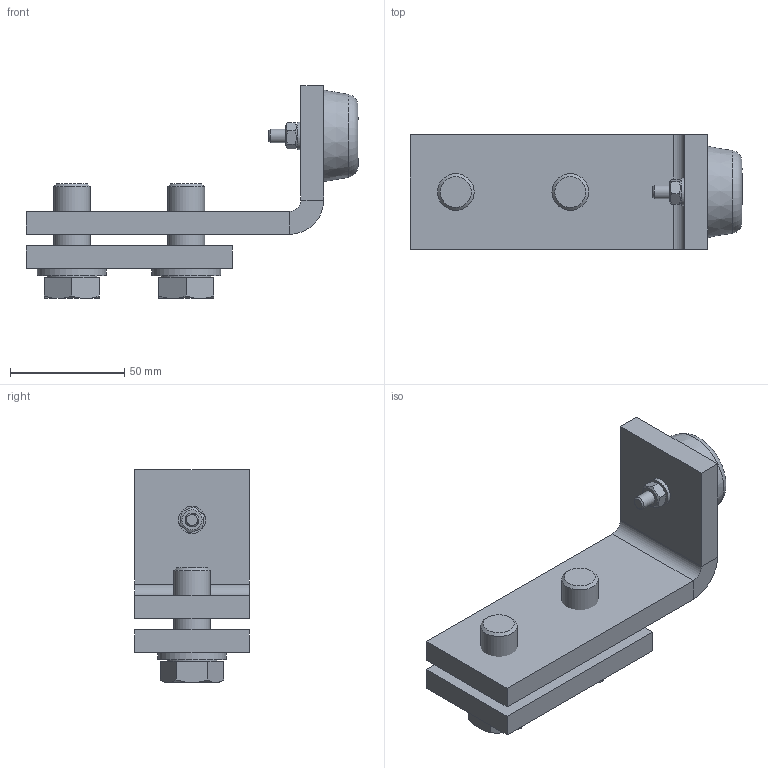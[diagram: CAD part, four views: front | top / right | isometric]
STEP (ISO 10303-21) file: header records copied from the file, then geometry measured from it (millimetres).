
FILE_DESCRIPTION(/* description */ ('Brennteil'),/* implementation_level */ '2;1');
FILE_NAME(/* name */ 'Q:\sge-ma\Produktmanagement-STB\STB\Workspace\stp\010336090.stp',/* time_stamp */ '2016-07-21T08:29:29+02:00',/* author */ ('avschreier'),/* organization */ (''),/* preprocessor_version */ 'ST-DEVELOPER v16.1',/* originating_system */ 'Autodesk Inventor 2016',/* authorisation */ '');
FILE_SCHEMA (('CONFIG_CONTROL_DESIGN'));
Length unit declared in the file: millimetre
Products named in the file (9): 000302253; 000302263; DIN_EN_ISO_4017-M16x40_en; 004203041; DIN_EN_ISO_7090-6,4_en; DIN_EN_ISO_4033-M6_en; DIN_EN_ISO_4017-M6x30_en; DIN_EN_ISO_7090-17_en; 010336090
Assembly tree (10 placements, depth 2):
  010336090
    000302253
    000302263
    DIN_EN_ISO_4017-M16x40_en  x2
    004203041
    DIN_EN_ISO_7090-6,4_en
    DIN_EN_ISO_4033-M6_en
    DIN_EN_ISO_4017-M6x30_en
    DIN_EN_ISO_7090-17_en  x2
Bounding box: 145 x 50 x 93 mm (x, y, z)
Volume: 171418.9 mm3; surface area: 51110.8 mm2
Topology: 10 solids, 10 shells, 121 faces, 242 edges, 148 vertices
Faces by surface type: plane 65, cone 29, cylinder 25, torus 2
Full cylindrical faces by diameter (mm): 4.917 x1, 5.459 x1, 6 x1, 6.4 x1, 6.5 x1, 7 x1, 8.7 x1, 12 x1, 13.835 x2, 14.917 x2, 15 x1, 16 x2, 17 x4, 22 x2, 30 x2
Entity records: 2539 total; most frequent: CARTESIAN_POINT 469, DIRECTION 420, ORIENTED_EDGE 328, AXIS2_PLACEMENT_3D 177, EDGE_CURVE 164, EDGE_LOOP 148, VERTEX_POINT 118, FACE_OUTER_BOUND 96
